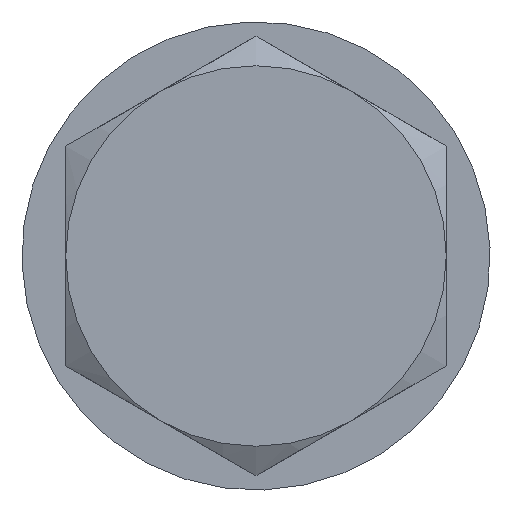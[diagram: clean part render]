
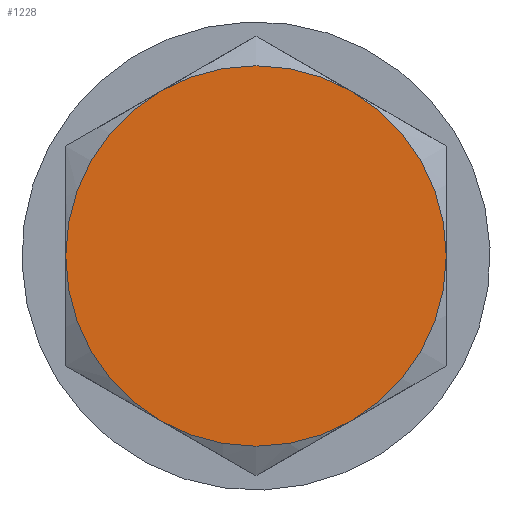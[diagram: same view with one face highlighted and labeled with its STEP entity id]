
A CAD part, left-side view. The second image highlights one B-rep face of the part: STEP entity #1228.
In plain terms, the highlighted planar face has unit normal (-1, 0, 0).
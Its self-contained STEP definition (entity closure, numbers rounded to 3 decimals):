
#818=CARTESIAN_POINT('',(-5.3,-3.25,-5.629));
#819=VERTEX_POINT('',#818);
#880=CARTESIAN_POINT('',(-5.3,6.5,0.));
#881=VERTEX_POINT('',#880);
#931=CARTESIAN_POINT('',(-5.3,3.25,-5.629));
#932=VERTEX_POINT('',#931);
#977=CARTESIAN_POINT('',(-5.3,3.25,5.629));
#978=VERTEX_POINT('',#977);
#1030=CARTESIAN_POINT('',(-5.3,-3.25,5.629));
#1031=VERTEX_POINT('',#1030);
#1081=CARTESIAN_POINT('',(-5.3,-6.5,0.));
#1082=VERTEX_POINT('',#1081);
#1119=CARTESIAN_POINT('',(-5.3,0.,0.));
#1120=DIRECTION('',(1.0,0.0,0.0));
#1121=DIRECTION('',(0.0,-1.0,0.0));
#1122=AXIS2_PLACEMENT_3D('',#1119,#1120,#1121);
#1123=CIRCLE('',#1122,6.5);
#1124=EDGE_CURVE('',#819,#932,#1123,.T.);
#1136=CARTESIAN_POINT('',(-5.3,0.,0.));
#1137=DIRECTION('',(1.0,0.0,0.0));
#1138=DIRECTION('',(0.0,-1.0,0.0));
#1139=AXIS2_PLACEMENT_3D('',#1136,#1137,#1138);
#1140=CIRCLE('',#1139,6.5);
#1141=EDGE_CURVE('',#1082,#819,#1140,.T.);
#1153=CARTESIAN_POINT('',(-5.3,0.,0.));
#1154=DIRECTION('',(1.0,0.0,0.0));
#1155=DIRECTION('',(0.0,-1.0,0.0));
#1156=AXIS2_PLACEMENT_3D('',#1153,#1154,#1155);
#1157=CIRCLE('',#1156,6.5);
#1158=EDGE_CURVE('',#1031,#1082,#1157,.T.);
#1171=CARTESIAN_POINT('',(-5.3,0.,0.));
#1172=DIRECTION('',(1.0,0.0,0.0));
#1173=DIRECTION('',(0.0,-1.0,0.0));
#1174=AXIS2_PLACEMENT_3D('',#1171,#1172,#1173);
#1175=CIRCLE('',#1174,6.5);
#1176=EDGE_CURVE('',#978,#1031,#1175,.T.);
#1188=CARTESIAN_POINT('',(-5.3,0.,0.));
#1189=DIRECTION('',(1.0,0.0,0.0));
#1190=DIRECTION('',(0.0,-1.0,0.0));
#1191=AXIS2_PLACEMENT_3D('',#1188,#1189,#1190);
#1192=CIRCLE('',#1191,6.5);
#1193=EDGE_CURVE('',#881,#978,#1192,.T.);
#1205=CARTESIAN_POINT('',(-5.3,0.,0.));
#1206=DIRECTION('',(1.0,0.0,0.0));
#1207=DIRECTION('',(0.0,-1.0,0.0));
#1208=AXIS2_PLACEMENT_3D('',#1205,#1206,#1207);
#1209=CIRCLE('',#1208,6.5);
#1210=EDGE_CURVE('',#932,#881,#1209,.T.);
#1215=CARTESIAN_POINT('',(-5.3,-3.25,0.));
#1216=DIRECTION('',(-1.0,0.0,0.0));
#1217=DIRECTION('',(0.0,0.0,-1.0));
#1218=AXIS2_PLACEMENT_3D('',#1215,#1216,#1217);
#1219=PLANE('',#1218);
#1220=ORIENTED_EDGE('',*,*,#1141,.F.);
#1221=ORIENTED_EDGE('',*,*,#1158,.F.);
#1222=ORIENTED_EDGE('',*,*,#1176,.F.);
#1223=ORIENTED_EDGE('',*,*,#1193,.F.);
#1224=ORIENTED_EDGE('',*,*,#1210,.F.);
#1225=ORIENTED_EDGE('',*,*,#1124,.F.);
#1226=EDGE_LOOP('',(#1220,#1221,#1222,#1223,#1224,#1225));
#1227=FACE_OUTER_BOUND('',#1226,.T.);
#1228=ADVANCED_FACE('',(#1227),#1219,.T.);
